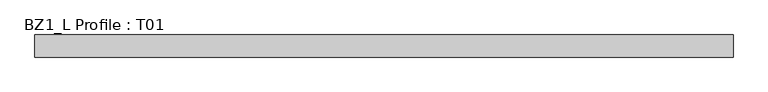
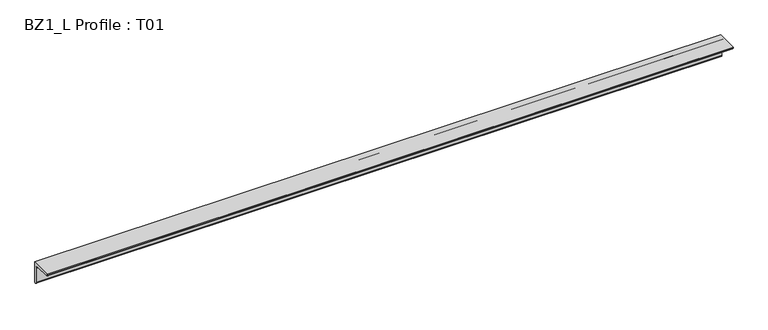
"""IFC4 building model written with IfcOpenShell, lengths in millimetres: beam geometry, BZ1_L Profile : T01."""

from ifc_helpers import new_model, si_unit, point, frame, frame_2d, origin, place, context, project, spatial, polyline, circle_curve, trimmed, segment, composite_curve, outline, extrude, source, transform, mapped, element, save


def bz1_l_profile_t01_c9825e95(model_context):
    return source(origin(), model_context, "Body", "SweptSolid", [
        extrude(outline(composite_curve([segment(trimmed(circle_curve(frame_2d((-41.5, 3.5)), 3.5), [point((-41.5, 0.0))], [point((-45.0, 3.5))], False, "CARTESIAN"), True, "CONTINUOUS"), segment(polyline([(-45.0, 3.5), (-45.0, 5.0), (5.0, 5.0), (5.0, -45.0), (3.5, -45.0)]), True, "CONTINUOUS"), segment(trimmed(circle_curve(frame_2d((3.5, -41.5)), 3.5), [point((3.5, -45.0))], [point((0.0, -41.5))], False, "CARTESIAN"), True, "CONTINUOUS"), segment(polyline([(0.0, -41.5), (0.0, -7.0)]), True, "CONTINUOUS"), segment(trimmed(circle_curve(frame_2d((-7.0, -7.0)), 7.0), [point((0.0, -7.0))], [point((-7.0, 0.0))], True, "CARTESIAN"), True, "CONTINUOUS"), segment(polyline([(-7.0, 0.0), (-41.5, 0.0)]), True, "CONTINUOUS")], self_intersect=False)), frame((0.0, 0.0, 0.0), z_axis=(1.0, 0.0, 0.0), x_axis=(0.0, 1.0, 0.0)), (0.0, 0.0, 1.0), 1580.0),
    ])


if __name__ == "__main__":
    model = new_model("IFC4")
    model_context = context("Model", 3, world=origin())
    ifc_project = project(units=[si_unit("LENGTHUNIT", "METRE", prefix="MILLI")], contexts=[model_context])
    site = spatial("IfcSite", under=ifc_project)
    building = spatial("IfcBuilding", under=site)
    placement = place(None, origin())
    bz1_l_profile_t01_shape = bz1_l_profile_t01_c9825e95(model_context)
    element("IfcBeam", 1, ObjectType="BZ1_L Profile : T01", at=placement, inside=building, context=model_context, shape_type="MappedRepresentation", body=[
        mapped(bz1_l_profile_t01_shape, transform((0.0, 0.0, 0.0), x_axis=(1.0, 0.0, 0.0), y_axis=(0.0, 1.0, 0.0), z_axis=(0.0, 0.0, 1.0))),
    ])
    save(model, "model.ifc")
